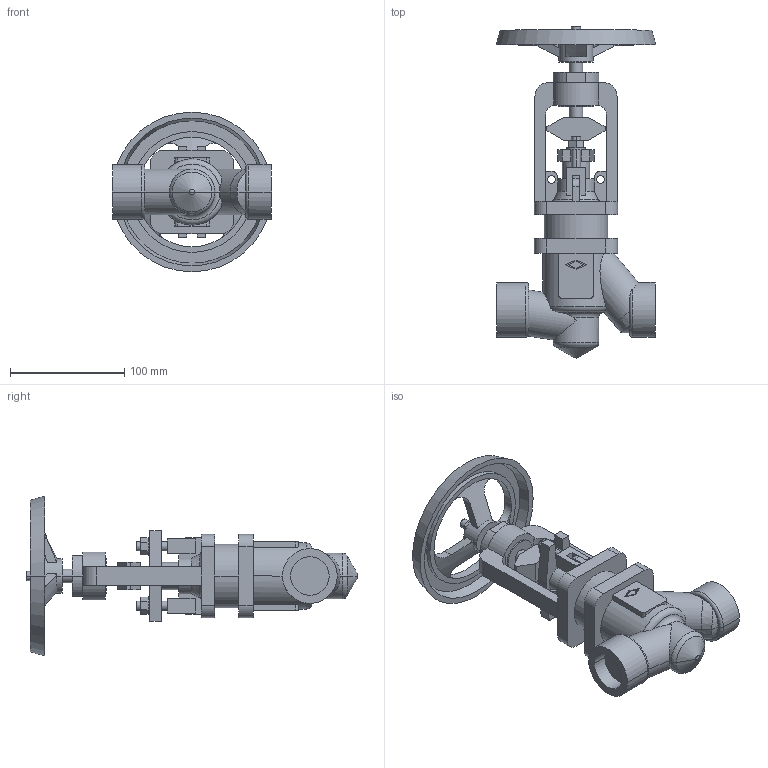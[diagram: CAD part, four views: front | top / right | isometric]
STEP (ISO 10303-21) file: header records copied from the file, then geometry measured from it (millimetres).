
FILE_DESCRIPTION(('OneSpaceDesigner STEP Export'),'2;1');
FILE_NAME('c000004273.stp','2010-05-04T11:19:13',(''),(''),'OneSpace Designer STEP processor for AP214 (Solid Model)','OneSpace Modeling 15.50B 03-Nov-2007 (C) CoCreate Software GmbH','');
FILE_SCHEMA(('AUTOMOTIVE_DESIGN { 1 0 10303 214 1 1 1 1 }'));
Length unit declared in the file: millimetre
Products named in the file (1): 1
Bounding box: 140 x 291.1 x 140 mm (x, y, z)
Volume: 736892.6 mm3; surface area: 131122.8 mm2
Topology: 1 solids, 1 shells, 284 faces, 744 edges, 485 vertices
Faces by surface type: plane 151, cylinder 93, cone 24, torus 14, sphere 2
Entity records: 11199 total; most frequent: CARTESIAN_POINT 2170, ORIENTED_EDGE 1488, DIRECTION 1283, EDGE_CURVE 744, VERTEX_POINT 485, VECTOR 431, LINE 431, AXIS2_PLACEMENT_3D 426
